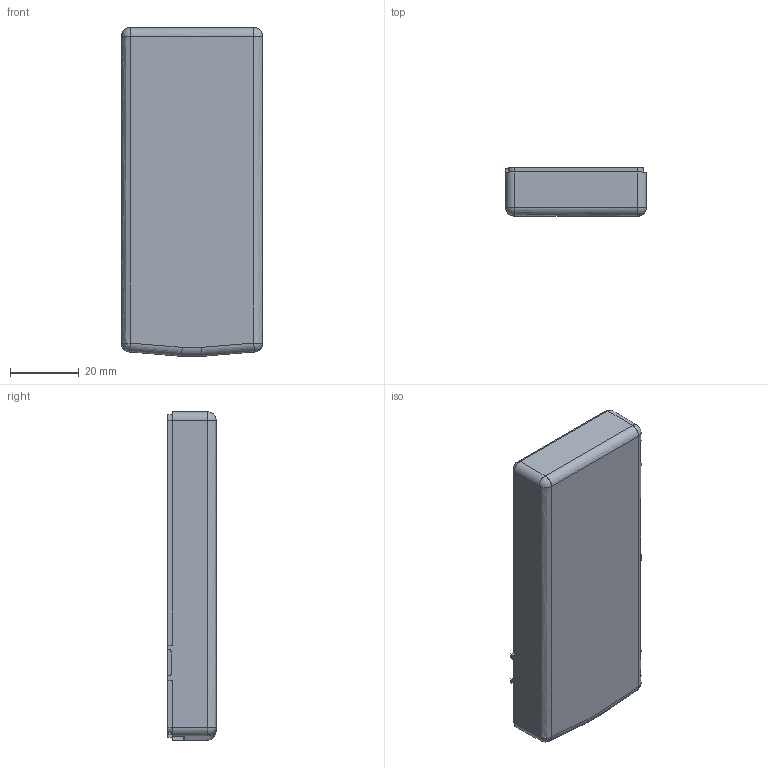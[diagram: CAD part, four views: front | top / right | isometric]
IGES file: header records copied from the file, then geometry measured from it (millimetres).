
Start section: SolidWorks IGES file using analytic representation for surfaces
Global section: file name: C:\Users\ALIENWARE\Documents\PowerBank\Case149Bottom.IGS; native system: SolidWorks 2014; preprocessor: SolidWorks 2014; author: ALIENWARE; date: 150203.114016; units: inch
Bounding box: 40.97 x 13.98 x 95.43 mm (x, y, z)
Surface area: 13902.3 mm2 (no closed solid volume)
Topology: 0 solids, 0 shells, 72 faces, 632 edges, 628 vertices
Faces by surface type: bspline 50, revolution 22
